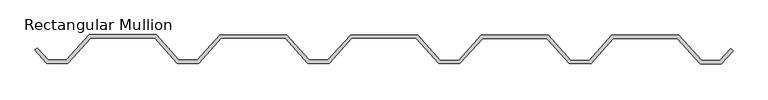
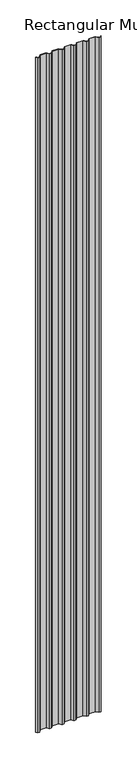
"""IFC4 building model written with IfcOpenShell, lengths in millimetres: member geometry, Rectangular Mullion : Telha Metálica - Trapezoidal."""

from ifc_helpers import new_model, si_unit, frame, origin, place, context, project, spatial, polyline, outline, extrude, source, transform, mapped, element, save


def rectangular_mullion_a8e6dcc2(model_context):
    return source(origin(), model_context, "Body", "SweptSolid", [
        extrude(outline(polyline([(440.066155, 75.6159987), (344.0661915, 75.6997745), (310.0330432, 37.7294595), (278.0330554, 37.7573848), (244.0662296, 75.7870409), (148.0662661, 75.8708167), (114.0331178, 37.9005018), (82.03313, 37.928427), (48.0663042, 75.9580832), (-47.9336592, 76.041859), (-81.9668075, 38.071544), (-113.9667953, 38.0994693), (-147.9336211, 76.1291254), (-243.9335846, 76.2129012), (-277.9667329, 38.2425863), (-309.9667207, 38.2705115), (-343.9335465, 76.3001677), (-439.93351, 76.3839434), (-473.9666583, 38.4136285), (-505.9666461, 38.4415538), (-523.4905169, 58.0614849), (-519.9464424, 61.5993792), (-503.7267316, 43.439601), (-476.1978461, 43.4155775), (-442.1646978, 81.3858924), (-341.693632, 81.2982149), (-307.7268062, 43.2685587), (-280.1979207, 43.2445352), (-246.1647724, 81.2148502), (-145.6937067, 81.1271726), (-111.7268809, 43.0975165), (-84.1979953, 43.073493), (-50.164847, 81.0438079), (50.3062187, 80.9561304), (84.2730445, 42.9264742), (111.80193, 42.9024508), (145.8350783, 80.8727657), (246.3061441, 80.7850881), (280.2729699, 42.755432), (307.8018554, 42.7314085), (341.8350037, 80.7017235), (442.3060694, 80.6140459), (476.2728952, 42.5843898), (503.8017808, 42.5603663), (520.072301, 60.7131616), (523.6101953, 57.1690871), (506.0329686, 37.5584173), (474.0329808, 37.5863426), (440.066155, 75.6159987)])), frame((0.0, 0.0, -11384.3498653), z_axis=(0.0, 0.0, 1.0), x_axis=(1.0, 0.0, 0.0)), (0.0, 0.0, 1.0), 11384.3498653),
    ])


if __name__ == "__main__":
    model = new_model("IFC4")
    model_context = context("Model", 3, world=origin())
    ifc_project = project(units=[si_unit("LENGTHUNIT", "METRE", prefix="MILLI")], contexts=[model_context])
    site = spatial("IfcSite", under=ifc_project)
    building = spatial("IfcBuilding", under=site)
    placement = place(None, origin())
    rectangular_mullion_shape = rectangular_mullion_a8e6dcc2(model_context)
    element("IfcMember", 1, ObjectType="Rectangular Mullion : Telha Metálica - Trapezoidal", at=placement, inside=building, context=model_context, shape_type="MappedRepresentation", body=[
        mapped(rectangular_mullion_shape, transform((0.0, 0.0, 0.0), x_axis=(1.0, 0.0, 0.0), y_axis=(0.0, 1.0, 0.0), z_axis=(0.0, 0.0, 1.0))),
    ])
    save(model, "model.ifc")
